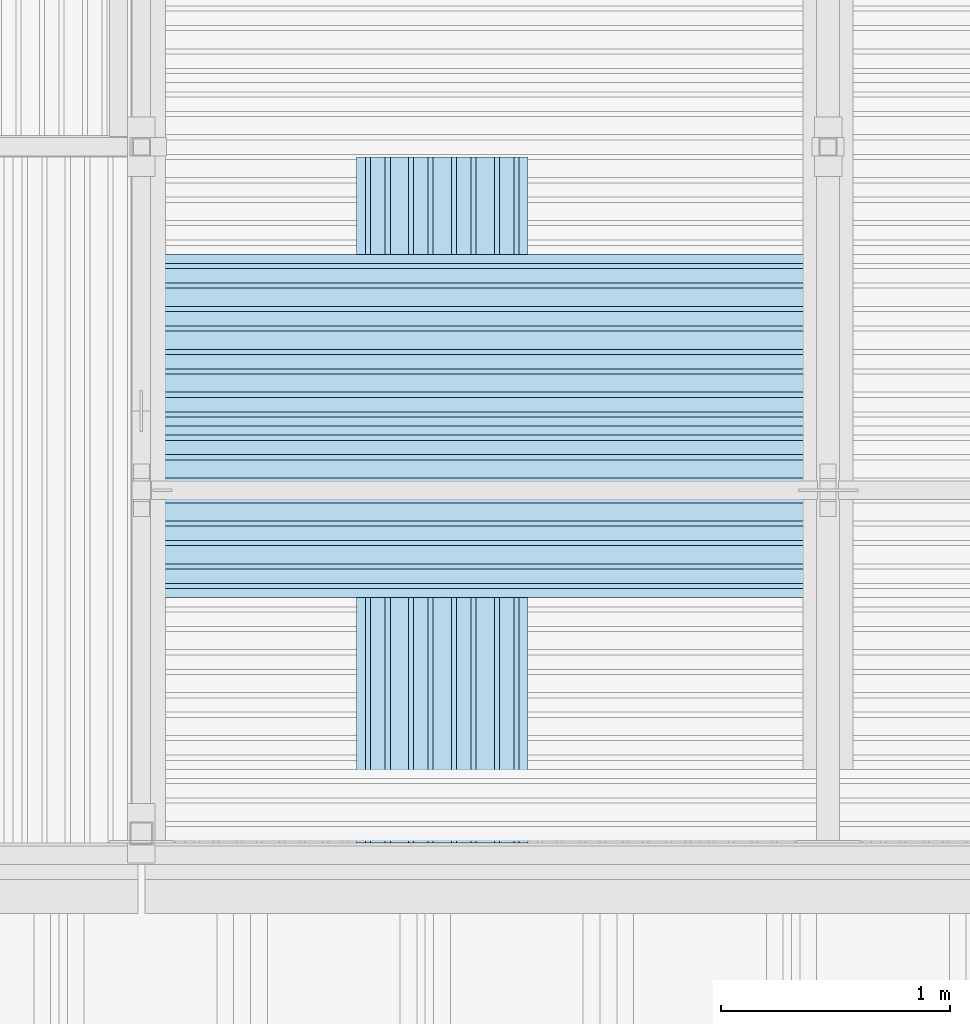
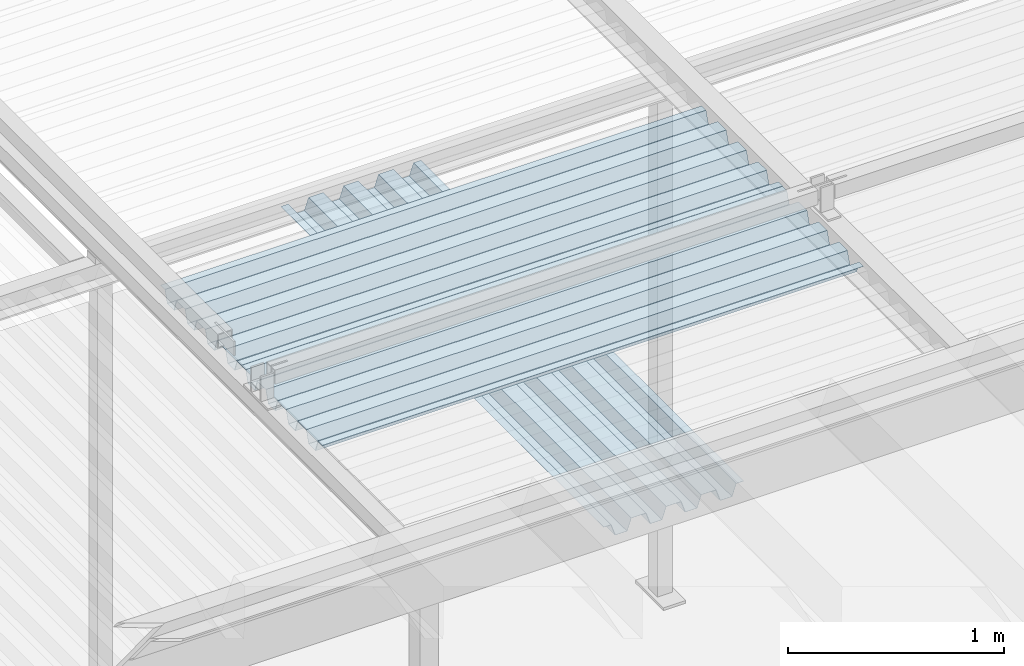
# One storey, part 61 of 98: 3 slabs.
"""IFC2X3 building model written with IfcOpenShell, lengths in millimetres."""

import ifcopenshell
import ifcopenshell.guid

model = None  # the IFC model being written
_history = None  # IfcOwnerHistory: only IFC2X3 demands one
_inside = {}  # id of a spatial element -> (the spatial element, [elements in it])
_under = {}  # id of a project, library or spatial element -> (it, [spatial elements below it])
_declared = {}  # id of a project -> (the project, [libraries it declares])
_typed = {}  # id of a type object -> (the type object, [elements of that type])
_made_of = {}  # id of a material, layer set ... -> (it, [elements and type objects made of it])


def new_model(schema):
    """Start an empty IFC model of exactly this schema.

    Asked for "IFC4X3", IfcOpenShell would pick the latest addendum, in which some entities
    have other attributes; the version numbers below select the first issue.
    IFC2X3 requires an IfcOwnerHistory on every rooted entity: one is made here for all.
    """
    global model, _history
    if schema == "IFC4X3":
        model = ifcopenshell.file(schema_version=(4, 3, 0, 0))
    else:
        model = ifcopenshell.file(schema=schema)
    _inside.clear()
    _under.clear()
    _declared.clear()
    _typed.clear()
    _made_of.clear()
    _history = None
    if model.schema == "IFC2X3":
        org = make("IfcOrganization", Name="unknown")
        user = make(
            "IfcPersonAndOrganization",
            ThePerson=make("IfcPerson", FamilyName="unknown"),
            TheOrganization=org,
        )
        app = make(
            "IfcApplication",
            ApplicationDeveloper=org,
            Version="unknown",
            ApplicationFullName="unknown",
            ApplicationIdentifier="unknown",
        )
        _history = make(
            "IfcOwnerHistory",
            OwningUser=user,
            OwningApplication=app,
            ChangeAction="ADDED",
            CreationDate=0,
        )
    return model


def make(cls, **values):
    """One entity of the class cls with the attributes given. An attribute that is None is left unset."""
    return model.create_entity(
        cls, **{name: value for name, value in values.items() if value is not None}
    )


def entity(cls, *values):
    """Any entity or typed value of the class cls, its attributes in the order of the schema. None: left unset."""
    e = model.create_entity(cls)
    for i, value in enumerate(values):
        if value is not None:
            e[i] = value
    return e


def rooted(cls, **values):
    """An entity with a GlobalId (a new one), such as an element, a storey or a relation."""
    return make(cls, GlobalId=ifcopenshell.guid.new(), OwnerHistory=_history, **values)


def si_unit(unit_type, name, prefix=None):
    """IfcSIUnit, for example si_unit("LENGTHUNIT", "METRE", prefix="MILLI")."""
    return make("IfcSIUnit", UnitType=unit_type, Prefix=prefix, Name=name)


def converted_unit(unit_type, name, factor, base, dimensions=None, offset=None):
    """IfcConversionBasedUnit, such as the inch: factor (a typed value) times the base unit."""
    return make(
        "IfcConversionBasedUnit"
        if offset is None
        else "IfcConversionBasedUnitWithOffset",
        ConversionOffset=offset,
        Dimensions=None
        if dimensions is None
        else entity("IfcDimensionalExponents", *dimensions),
        UnitType=unit_type,
        Name=name,
        ConversionFactor=make(
            "IfcMeasureWithUnit", ValueComponent=factor, UnitComponent=base
        ),
    )


def derived_unit(unit_type, elements):
    """IfcDerivedUnit: a product of units, each with its exponent."""
    return make(
        "IfcDerivedUnit",
        Elements=[
            make("IfcDerivedUnitElement", Unit=unit, Exponent=power)
            for unit, power in elements
        ],
        UnitType=unit_type,
    )


def assignment(units):
    """IfcUnitAssignment: the units of a project."""
    return None if units is None else make("IfcUnitAssignment", Units=units)


def point(xyz):
    """IfcCartesianPoint."""
    return None if xyz is None else make("IfcCartesianPoint", Coordinates=xyz)


def direction(xyz):
    """IfcDirection."""
    return None if xyz is None else make("IfcDirection", DirectionRatios=xyz)


def frame(location, z_axis=None, x_axis=None):
    """IfcAxis2Placement3D, a coordinate frame: its origin and axes. An axis left out is left unset."""
    return make(
        "IfcAxis2Placement3D",
        Location=point(location),
        Axis=direction(z_axis),
        RefDirection=direction(x_axis),
    )


def origin_with_axes():
    """The frame at (0, 0, 0) with the z axis (0, 0, 1) and the x axis (1, 0, 0) written out."""
    return frame((0.0, 0.0, 0.0), z_axis=(0.0, 0.0, 1.0), x_axis=(1.0, 0.0, 0.0))


def place(relative_to, where):
    """IfcLocalPlacement: puts the frame where relative to a parent placement (None: the world)."""
    return make(
        "IfcLocalPlacement", PlacementRelTo=relative_to, RelativePlacement=where
    )


def context(
    kind, dimensions, precision=None, world=None, true_north=None, identifier=None
):
    """IfcGeometricRepresentationContext, for example the 3D "Model" context."""
    return make(
        "IfcGeometricRepresentationContext",
        ContextIdentifier=identifier,
        ContextType=kind,
        CoordinateSpaceDimension=dimensions,
        Precision=precision,
        WorldCoordinateSystem=world,
        TrueNorth=true_north,
    )


def subcontext(parent, identifier, kind, view, scale=None):
    """IfcGeometricRepresentationSubContext, for example "Body" below "Model"."""
    return make(
        "IfcGeometricRepresentationSubContext",
        ContextIdentifier=identifier,
        ContextType=kind,
        ParentContext=parent,
        TargetScale=scale,
        TargetView=view,
    )


def project(units=None, contexts=None):
    """IfcProject with its units and contexts."""
    return rooted(
        "IfcProject",
        Name="project",
        RepresentationContexts=contexts,
        UnitsInContext=assignment(units),
    )


def spatial(cls, under=None, at=None, **own):
    """A site, building, storey or space (cls), placed at a placement, below another one or the project."""
    s = rooted(cls, ObjectPlacement=at, **own)
    if under is not None:
        _under.setdefault(under.id(), (under, []))[1].append(s)
    return s


def faces_of(points, faces, orient=None, outer=None):
    """IfcFace entities. A face is a list of loops; a loop is a list of indices into points, from 0.

    orient and outer hold one flag for each loop. By default every Orientation is true, the
    first loop of a face is its IfcFaceOuterBound and the others are IfcFaceBound.
    """
    made = []
    for i, loops in enumerate(faces):
        bounds = []
        for j, loop in enumerate(loops):
            is_outer = j == 0 if outer is None else outer[i][j]
            bounds.append(
                make(
                    "IfcFaceOuterBound" if is_outer else "IfcFaceBound",
                    Bound=make("IfcPolyLoop", Polygon=[points[k] for k in loop]),
                    Orientation=True if orient is None else orient[i][j],
                )
            )
        made.append(make("IfcFace", Bounds=bounds))
    return made


def faceted_brep(points, faces, orient=None, outer=None, voids=None):
    """IfcFacetedBrep: a solid bounded by flat faces; with voids (closed shells), ...WithVoids."""
    shared = [point(p) for p in points]
    hull = make("IfcClosedShell", CfsFaces=faces_of(shared, faces, orient, outer))
    if voids is None:
        return make("IfcFacetedBrep", Outer=hull)
    return make(
        "IfcFacetedBrepWithVoids",
        Outer=hull,
        Voids=[
            make(cls, CfsFaces=faces_of(shared, fs, o, b)) for cls, fs, o, b in voids
        ],
    )


def shape(context_of_items, identifier, shape_type, items):
    """IfcShapeRepresentation: the items that make up one representation, for example the "Body"."""
    return make(
        "IfcShapeRepresentation",
        ContextOfItems=context_of_items,
        RepresentationIdentifier=identifier,
        RepresentationType=shape_type,
        Items=items,
    )


def material(Name=None, Category=None):
    """IfcMaterial."""
    return make("IfcMaterial", Name=Name, Category=Category)


def made_of(thing, what):
    """Note that an element or type object is made of a material, layer set ...; save() writes the relation."""
    if what is not None:
        _made_of.setdefault(what.id(), (what, []))[1].append(thing)
    return thing


def type_object(cls, material=None, **own):
    """A type object (cls), such as IfcWallType, which elements share."""
    return made_of(rooted(cls, **own), material)


def element(
    cls,
    number,
    at=None,
    inside=None,
    cuts=None,
    type_object=None,
    material=None,
    context=None,
    identifier="Body",
    shape_type=None,
    held_by="IfcProductDefinitionShape",
    body=None,
    shapes=None,
    **own,
):
    """One element of the class cls, such as IfcWall. Its Tag is "e" and its number.

    at: its placement. inside: the storey or other place that contains it. cuts: it is an
    opening in that element (IfcRelVoidsElement). A single representation is given by context,
    identifier, shape_type and body (its items); several are given by shapes. held_by: the class
    of the entity that holds the representations. save() writes the other relations.
    """
    e = rooted(cls, Tag="e%d" % number, ObjectPlacement=at, **own)
    if body is not None:
        shapes = [shape(context, identifier, shape_type, body)]
    if shapes is not None:
        e.Representation = make(held_by, Representations=shapes)
    if inside is not None:
        _inside.setdefault(inside.id(), (inside, []))[1].append(e)
    if cuts is not None:
        rooted(
            "IfcRelVoidsElement", RelatingBuildingElement=cuts, RelatedOpeningElement=e
        )
    if type_object is not None:
        _typed.setdefault(type_object.id(), (type_object, []))[1].append(e)
    return made_of(e, material)


def aggregate(whole, parts):
    """IfcRelAggregates: a whole, such as a stair, and the parts it consists of."""
    return rooted("IfcRelAggregates", RelatingObject=whole, RelatedObjects=parts)


def save(model, path):
    """Write the relations noted so far, then the file.

    IfcRelAggregates (storeys below a building ...), IfcRelContainedInSpatialStructure (elements
    in a storey), IfcRelDefinesByType, IfcRelAssociatesMaterial and IfcRelDeclares: one each for
    every whole, place, type object, material and project.
    """
    for whole, parts in _under.values():
        aggregate(whole, parts)
    for where, things in _inside.values():
        rooted(
            "IfcRelContainedInSpatialStructure",
            RelatedElements=things,
            RelatingStructure=where,
        )
    for kind, things in _typed.values():
        rooted("IfcRelDefinesByType", RelatedObjects=things, RelatingType=kind)
    for what, things in _made_of.values():
        rooted("IfcRelAssociatesMaterial", RelatedObjects=things, RelatingMaterial=what)
    for by, libraries in _declared.values():
        rooted("IfcRelDeclares", RelatingContext=by, RelatedDefinitions=libraries)
    model.write(path)


model = new_model("IFC2X3")

# Units and contexts
model_context = context("Model", 3, precision=0.01, world=frame((0.0, 4.29681676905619e-09, 0.0)), true_north=direction((4.01073788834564e-13, 1.0)))
plan_context = context("Plan", 3, precision=0.01, world=frame((0.0, 4.29681676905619e-09, 0.0)), true_north=direction((4.01073788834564e-13, 1.0)))
body_context = subcontext(model_context, "Body", "Model", "MODEL_VIEW")
ifc_project = project(units=[converted_unit("PLANEANGLEUNIT", "DEGREE", entity("IfcPositiveLengthMeasure", 0.0174532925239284), si_unit("PLANEANGLEUNIT", "RADIAN"), dimensions=[0, 0, 0, 0, 0, 0, 0]), si_unit("AREAUNIT", "SQUARE_METRE"), si_unit("LENGTHUNIT", "METRE", prefix="MILLI"), si_unit("MASSUNIT", "GRAM", prefix="KILO"), si_unit("POWERUNIT", "WATT"), si_unit("PRESSUREUNIT", "PASCAL"), si_unit("FORCEUNIT", "NEWTON", prefix="KILO"), si_unit("ELECTRICCURRENTUNIT", "AMPERE"), si_unit("THERMODYNAMICTEMPERATUREUNIT", "DEGREE_CELSIUS"), si_unit("TIMEUNIT", "SECOND"), si_unit("VOLUMEUNIT", "CUBIC_METRE"), derived_unit("LINEARVELOCITYUNIT", [(si_unit("LENGTHUNIT", "METRE"), 1), (si_unit("TIMEUNIT", "SECOND"), -1)]), derived_unit("VOLUMETRICFLOWRATEUNIT", [(si_unit("VOLUMEUNIT", "CUBIC_METRE"), 1), (si_unit("TIMEUNIT", "SECOND"), -1)]), derived_unit("THERMALTRANSMITTANCEUNIT", [(si_unit("POWERUNIT", "WATT"), 1), (si_unit("THERMODYNAMICTEMPERATUREUNIT", "KELVIN"), -1), (si_unit("AREAUNIT", "SQUARE_METRE"), -1)])], contexts=[model_context, plan_context])

# Site, building, storey
site_placement = place(None, frame((0.0, -4.29681676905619e-09, 0.0), z_axis=(0.0, 0.0, 1.0), x_axis=(1.0, 0.0, 0.0)))
site = spatial("IfcSite", under=ifc_project, at=site_placement, Name="Gardermoen", CompositionType="ELEMENT")
building_placement = place(site_placement, frame((0.0, 4.29681676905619e-09, 0.0), z_axis=(0.0, 0.0, 1.0), x_axis=(1.0, 0.0, 0.0)))
building = spatial("IfcBuilding", under=site, at=building_placement, Name="TS", CompositionType="ELEMENT")
storey_placement = place(building_placement, origin_with_axes())
storey = spatial("IfcBuildingStorey", under=building, at=storey_placement, Name="D", CompositionType="ELEMENT", Elevation=0.0)

# Slabs
ifc_material = material(Name="STEEL/S355")
slab_type = type_object("IfcSlabType", Name="PLANJA70", PredefinedType="NOTDEFINED")
slab_1_placement = place(storey_placement, frame((522950.000000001, 415904.996695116, 206958.849718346), z_axis=(0.0, 0.0, 1.0), x_axis=(-0.999999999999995, -9.99999902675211e-08, 0.0)))
element("IfcSlab", 1, at=slab_1_placement, inside=storey, type_object=slab_type, material=ifc_material, Name="STÅLTAK", ObjectType="PLANJA70", PredefinedType="FLOOR", context=body_context, shape_type="Brep", body=[
    faceted_brep([(0.0, 375.0, 34.1500015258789), (0.0, 335.299987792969, 34.1500015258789), (2900.00079747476, 335.299987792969, 34.1500015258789), (2900.00079747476, 375.0, 34.1500015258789), (0.0, 313.010681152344, -32.1500015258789), (2900.00079747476, 313.010681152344, -32.1500015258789), (0.0, 249.489303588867, -32.1500015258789), (2900.00079747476, 249.489303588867, -32.1500015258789), (0.0, 227.199996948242, 34.1500015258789), (2900.00079747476, 227.199996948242, 34.1500015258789), (0.0, 147.800003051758, 34.1500015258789), (2900.00079747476, 147.800003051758, 34.1500015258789), (0.0, 125.280120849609, -33.1500015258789), (2900.00079747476, 125.280120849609, -33.1500015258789), (0.0, 62.2198791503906, -33.1500015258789), (2900.00079747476, 62.2198791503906, -33.1500015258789), (0.0, 39.7000007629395, 34.1500015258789), (2900.00079747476, 39.7000007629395, 34.1500015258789), (0.0, -39.7000007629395, 34.1500015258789), (2900.00079747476, -39.7000007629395, 34.1500015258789), (0.0, -62.2198791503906, -33.1500015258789), (2900.00079747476, -62.2198791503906, -33.1500015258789), (0.0, -125.280120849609, -33.1500015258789), (2900.00079747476, -125.280120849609, -33.1500015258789), (0.0, -147.800003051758, 34.1500015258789), (2900.00079747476, -147.800003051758, 34.1500015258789), (0.0, -227.199996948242, 34.1500015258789), (2900.00079747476, -227.199996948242, 34.1500015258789), (0.0, -249.719879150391, -33.1500015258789), (2900.00079747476, -249.719879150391, -33.1500015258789), (0.0, -312.781188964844, -33.1500015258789), (2900.00079747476, -312.781188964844, -33.1500015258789), (0.0, -335.070495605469, 33.1500015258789), (2900.00079747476, -335.070495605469, 33.1500015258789), (0.0, -375.0, 33.1500015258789), (2900.00079747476, -375.0, 33.1500015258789), (0.0, -375.0, 32.1500015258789), (2900.00079747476, -375.0, 32.1500015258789), (0.0, -335.789306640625, 32.1500015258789), (2900.00079747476, -335.789306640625, 32.1500015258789), (0.0, -313.5, -34.1500015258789), (2900.00079747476, -313.5, -34.1500015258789), (0.0, -249.0, -34.1500015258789), (2900.00079747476, -249.0, -34.1500015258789), (0.0, -226.480117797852, 33.1500015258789), (2900.00079747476, -226.480117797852, 33.1500015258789), (0.0, -148.519882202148, 33.1500015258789), (2900.00079747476, -148.519882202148, 33.1500015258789), (0.0, -126.0, -34.1500015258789), (2900.00079747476, -126.0, -34.1500015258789), (0.0, -61.5, -34.1500015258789), (2900.00079747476, -61.5, -34.1500015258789), (0.0, -38.9801177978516, 33.1500015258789), (2900.00079747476, -38.9801177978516, 33.1500015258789), (0.0, 38.9801177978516, 33.1500015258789), (2900.00079747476, 38.9801177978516, 33.1500015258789), (0.0, 61.5, -34.1500015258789), (2900.00079747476, 61.5, -34.1500015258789), (0.0, 126.0, -34.1500015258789), (2900.00079747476, 126.0, -34.1500015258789), (0.0, 148.519882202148, 33.1500015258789), (2900.00079747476, 148.519882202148, 33.1500015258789), (0.0, 226.481185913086, 33.1500015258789), (2900.00079747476, 226.481185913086, 33.1500015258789), (0.0, 248.770492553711, -33.1500015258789), (2900.00079747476, 248.770492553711, -33.1500015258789), (0.0, 313.7294921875, -33.1500015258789), (2900.00079747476, 313.7294921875, -33.1500015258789), (0.0, 336.018798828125, 33.1500015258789), (2900.00079747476, 336.018798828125, 33.1500015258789), (0.0, 375.0, 33.1500015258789), (2900.00079747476, 375.0, 33.1500015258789)], [[[0, 1, 2, 3]], [[1, 4, 5, 2]], [[4, 6, 7, 5]], [[6, 8, 9, 7]], [[8, 10, 11, 9]], [[10, 12, 13, 11]], [[12, 14, 15, 13]], [[14, 16, 17, 15]], [[16, 18, 19, 17]], [[18, 20, 21, 19]], [[22, 23, 21, 20]], [[22, 24, 25, 23]], [[24, 26, 27, 25]], [[26, 28, 29, 27]], [[28, 30, 31, 29]], [[30, 32, 33, 31]], [[32, 34, 35, 33]], [[34, 36, 37, 35]], [[36, 38, 39, 37]], [[38, 40, 41, 39]], [[40, 42, 43, 41]], [[42, 44, 45, 43]], [[44, 46, 47, 45]], [[46, 48, 49, 47]], [[48, 50, 51, 49]], [[50, 52, 53, 51]], [[52, 54, 55, 53]], [[54, 56, 57, 55]], [[56, 58, 59, 57]], [[58, 60, 61, 59]], [[60, 62, 63, 61]], [[62, 64, 65, 63]], [[64, 66, 67, 65]], [[66, 68, 69, 67]], [[68, 70, 71, 69]], [[70, 0, 3, 71]], [[5, 7, 9, 11, 13, 15, 17, 19, 21, 23, 25, 27, 29, 31, 33, 35, 37, 39, 41, 43, 45, 47, 49, 51, 53, 55, 57, 59, 61, 63, 65, 67, 69, 71, 3, 2]], [[70, 68, 66, 64, 62, 60, 58, 56, 54, 52, 50, 48, 46, 44, 42, 40, 38, 36, 34, 32, 30, 28, 26, 24, 22, 20, 18, 16, 14, 12, 10, 8, 6, 4, 1, 0]]]),
])
slab_2_placement = place(storey_placement, frame((522950.000000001, 416654.996695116, 206958.849718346), z_axis=(0.0, 0.0, 1.0), x_axis=(-0.999999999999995, -9.99999902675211e-08, 0.0)))
element("IfcSlab", 2, at=slab_2_placement, inside=storey, type_object=slab_type, material=ifc_material, Name="STÅLTAK", ObjectType="PLANJA70", PredefinedType="FLOOR", context=body_context, shape_type="Brep", body=[
    faceted_brep([(0.0, 375.0, 34.1500015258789), (0.0, 335.299987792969, 34.1500015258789), (2900.00079747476, 335.299987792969, 34.1500015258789), (2900.00079747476, 375.0, 34.1500015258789), (0.0, 313.010681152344, -32.1500015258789), (2900.00079747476, 313.010681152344, -32.1500015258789), (0.0, 249.489303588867, -32.1500015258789), (2900.00079747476, 249.489303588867, -32.1500015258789), (0.0, 227.199996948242, 34.1500015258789), (2900.00079747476, 227.199996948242, 34.1500015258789), (0.0, 147.800003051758, 34.1500015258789), (2900.00079747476, 147.800003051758, 34.1500015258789), (0.0, 125.280120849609, -33.1500015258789), (2900.00079747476, 125.280120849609, -33.1500015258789), (0.0, 62.2198791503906, -33.1500015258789), (2900.00079747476, 62.2198791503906, -33.1500015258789), (0.0, 39.7000007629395, 34.1500015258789), (2900.00079747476, 39.7000007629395, 34.1500015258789), (0.0, -39.7000007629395, 34.1500015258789), (2900.00079747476, -39.7000007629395, 34.1500015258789), (0.0, -62.2198791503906, -33.1500015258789), (2900.00079747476, -62.2198791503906, -33.1500015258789), (0.0, -125.280120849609, -33.1500015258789), (2900.00079747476, -125.280120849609, -33.1500015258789), (0.0, -147.800003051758, 34.1500015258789), (2900.00079747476, -147.800003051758, 34.1500015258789), (0.0, -227.199996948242, 34.1500015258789), (2900.00079747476, -227.199996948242, 34.1500015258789), (0.0, -249.719879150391, -33.1500015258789), (2900.00079747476, -249.719879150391, -33.1500015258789), (0.0, -312.781188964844, -33.1500015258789), (2900.00079747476, -312.781188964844, -33.1500015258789), (0.0, -335.070495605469, 33.1500015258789), (2900.00079747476, -335.070495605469, 33.1500015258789), (0.0, -375.0, 33.1500015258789), (2900.00079747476, -375.0, 33.1500015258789), (0.0, -375.0, 32.1500015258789), (2900.00079747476, -375.0, 32.1500015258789), (0.0, -335.789306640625, 32.1500015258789), (2900.00079747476, -335.789306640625, 32.1500015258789), (0.0, -313.5, -34.1500015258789), (2900.00079747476, -313.5, -34.1500015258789), (0.0, -249.0, -34.1500015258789), (2900.00079747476, -249.0, -34.1500015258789), (0.0, -226.480117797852, 33.1500015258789), (2900.00079747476, -226.480117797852, 33.1500015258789), (0.0, -148.519882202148, 33.1500015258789), (2900.00079747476, -148.519882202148, 33.1500015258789), (0.0, -126.0, -34.1500015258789), (2900.00079747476, -126.0, -34.1500015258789), (0.0, -61.5, -34.1500015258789), (2900.00079747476, -61.5, -34.1500015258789), (0.0, -38.9801177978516, 33.1500015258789), (2900.00079747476, -38.9801177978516, 33.1500015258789), (0.0, 38.9801177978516, 33.1500015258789), (2900.00079747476, 38.9801177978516, 33.1500015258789), (0.0, 61.5, -34.1500015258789), (2900.00079747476, 61.5, -34.1500015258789), (0.0, 126.0, -34.1500015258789), (2900.00079747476, 126.0, -34.1500015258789), (0.0, 148.519882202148, 33.1500015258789), (2900.00079747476, 148.519882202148, 33.1500015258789), (0.0, 226.481185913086, 33.1500015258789), (2900.00079747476, 226.481185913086, 33.1500015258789), (0.0, 248.770492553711, -33.1500015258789), (2900.00079747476, 248.770492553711, -33.1500015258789), (0.0, 313.7294921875, -33.1500015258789), (2900.00079747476, 313.7294921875, -33.1500015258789), (0.0, 336.018798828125, 33.1500015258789), (2900.00079747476, 336.018798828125, 33.1500015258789), (0.0, 375.0, 33.1500015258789), (2900.00079747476, 375.0, 33.1500015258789)], [[[0, 1, 2, 3]], [[1, 4, 5, 2]], [[4, 6, 7, 5]], [[6, 8, 9, 7]], [[8, 10, 11, 9]], [[10, 12, 13, 11]], [[12, 14, 15, 13]], [[14, 16, 17, 15]], [[16, 18, 19, 17]], [[18, 20, 21, 19]], [[22, 23, 21, 20]], [[22, 24, 25, 23]], [[24, 26, 27, 25]], [[26, 28, 29, 27]], [[28, 30, 31, 29]], [[30, 32, 33, 31]], [[32, 34, 35, 33]], [[34, 36, 37, 35]], [[36, 38, 39, 37]], [[38, 40, 41, 39]], [[40, 42, 43, 41]], [[42, 44, 45, 43]], [[44, 46, 47, 45]], [[46, 48, 49, 47]], [[48, 50, 51, 49]], [[50, 52, 53, 51]], [[52, 54, 55, 53]], [[54, 56, 57, 55]], [[56, 58, 59, 57]], [[58, 60, 61, 59]], [[60, 62, 63, 61]], [[62, 64, 65, 63]], [[64, 66, 67, 65]], [[66, 68, 69, 67]], [[68, 70, 71, 69]], [[70, 0, 3, 71]], [[5, 7, 9, 11, 13, 15, 17, 19, 21, 23, 25, 27, 29, 31, 33, 35, 37, 39, 41, 43, 45, 47, 49, 51, 53, 55, 57, 59, 61, 63, 65, 67, 69, 71, 3, 2]], [[70, 68, 66, 64, 62, 60, 58, 56, 54, 52, 50, 48, 46, 44, 42, 40, 38, 36, 34, 32, 30, 28, 26, 24, 22, 20, 18, 16, 14, 12, 10, 8, 6, 4, 1, 0]]]),
])
slab_3_placement = place(storey_placement, frame((521314.996695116, 414458.999999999, 206834.129718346), z_axis=(0.0, 0.0, 1.0), x_axis=(0.0, 1.0, 0.0)))
element("IfcSlab", 3, at=slab_3_placement, inside=storey, type_object=slab_type, material=ifc_material, Name="STÅLTAK", ObjectType="PLANJA70", PredefinedType="FLOOR", context=body_context, shape_type="Brep", body=[
    faceted_brep([(0.0, 375.0, 34.1500015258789), (0.0, 335.299987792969, 34.1500015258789), (2995.66049790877, 335.299987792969, 34.1500015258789), (2995.66049790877, 375.0, 34.1500015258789), (0.0, 313.010681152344, -32.1500015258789), (2995.66049790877, 313.010681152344, -32.1500015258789), (0.0, 249.489303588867, -32.1500015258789), (2995.66049790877, 249.489303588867, -32.1500015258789), (0.0, 227.199996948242, 34.1500015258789), (2995.66049790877, 227.199996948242, 34.1500015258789), (0.0, 147.800003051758, 34.1500015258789), (2995.66049790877, 147.800003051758, 34.1500015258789), (0.0, 125.280120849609, -33.1500015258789), (2995.66049790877, 125.280120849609, -33.1500015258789), (0.0, 62.2198791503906, -33.1500015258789), (2995.66049790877, 62.2198791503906, -33.1500015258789), (0.0, 39.7000007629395, 34.1500015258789), (2995.66049790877, 39.7000007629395, 34.1500015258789), (0.0, -39.7000007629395, 34.1500015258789), (2995.66049790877, -39.7000007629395, 34.1500015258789), (0.0, -62.2198791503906, -33.1500015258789), (2995.66049790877, -62.2198791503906, -33.1500015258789), (0.0, -125.280120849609, -33.1500015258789), (2995.66049790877, -125.280120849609, -33.1500015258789), (0.0, -147.800003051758, 34.1500015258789), (2995.66049790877, -147.800003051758, 34.1500015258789), (0.0, -227.199996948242, 34.1500015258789), (2995.66049790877, -227.199996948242, 34.1500015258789), (0.0, -249.719879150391, -33.1500015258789), (2995.66049790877, -249.719879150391, -33.1500015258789), (0.0, -312.781188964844, -33.1500015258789), (2995.66049790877, -312.781188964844, -33.1500015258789), (0.0, -335.070495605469, 33.1500015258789), (2995.66049790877, -335.070495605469, 33.1500015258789), (0.0, -375.0, 33.1500015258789), (2995.66049790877, -375.0, 33.1500015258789), (0.0, -375.0, 32.1500015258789), (2995.66049790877, -375.0, 32.1500015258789), (0.0, -335.789306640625, 32.1500015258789), (2995.66049790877, -335.789306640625, 32.1500015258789), (0.0, -313.5, -34.1500015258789), (2995.66049790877, -313.5, -34.1500015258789), (0.0, -249.0, -34.1500015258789), (2995.66049790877, -249.0, -34.1500015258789), (0.0, -226.480117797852, 33.1500015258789), (2995.66049790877, -226.480117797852, 33.1500015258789), (0.0, -148.519882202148, 33.1500015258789), (2995.66049790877, -148.519882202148, 33.1500015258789), (0.0, -126.0, -34.1500015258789), (2995.66049790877, -126.0, -34.1500015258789), (0.0, -61.5, -34.1500015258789), (2995.66049790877, -61.5, -34.1500015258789), (0.0, -38.9801177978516, 33.1500015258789), (2995.66049790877, -38.9801177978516, 33.1500015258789), (0.0, 38.9801177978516, 33.1500015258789), (2995.66049790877, 38.9801177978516, 33.1500015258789), (0.0, 61.5, -34.1500015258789), (2995.66049790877, 61.5, -34.1500015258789), (0.0, 126.0, -34.1500015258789), (2995.66049790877, 126.0, -34.1500015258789), (0.0, 148.519882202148, 33.1500015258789), (2995.66049790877, 148.519882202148, 33.1500015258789), (0.0, 226.481185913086, 33.1500015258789), (2995.66049790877, 226.481185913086, 33.1500015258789), (0.0, 248.770492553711, -33.1500015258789), (2995.66049790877, 248.770492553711, -33.1500015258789), (0.0, 313.7294921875, -33.1500015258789), (2995.66049790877, 313.7294921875, -33.1500015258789), (0.0, 336.018798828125, 33.1500015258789), (2995.66049790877, 336.018798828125, 33.1500015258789), (0.0, 375.0, 33.1500015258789), (2995.66049790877, 375.0, 33.1500015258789)], [[[0, 1, 2, 3]], [[1, 4, 5, 2]], [[4, 6, 7, 5]], [[6, 8, 9, 7]], [[8, 10, 11, 9]], [[10, 12, 13, 11]], [[12, 14, 15, 13]], [[14, 16, 17, 15]], [[16, 18, 19, 17]], [[18, 20, 21, 19]], [[20, 22, 23, 21]], [[22, 24, 25, 23]], [[24, 26, 27, 25]], [[26, 28, 29, 27]], [[28, 30, 31, 29]], [[30, 32, 33, 31]], [[32, 34, 35, 33]], [[34, 36, 37, 35]], [[36, 38, 39, 37]], [[38, 40, 41, 39]], [[40, 42, 43, 41]], [[42, 44, 45, 43]], [[44, 46, 47, 45]], [[46, 48, 49, 47]], [[48, 50, 51, 49]], [[50, 52, 53, 51]], [[52, 54, 55, 53]], [[54, 56, 57, 55]], [[56, 58, 59, 57]], [[58, 60, 61, 59]], [[60, 62, 63, 61]], [[62, 64, 65, 63]], [[64, 66, 67, 65]], [[66, 68, 69, 67]], [[68, 70, 71, 69]], [[70, 0, 3, 71]], [[5, 7, 9, 11, 13, 15, 17, 19, 21, 23, 25, 27, 29, 31, 33, 35, 37, 39, 41, 43, 45, 47, 49, 51, 53, 55, 57, 59, 61, 63, 65, 67, 69, 71, 3, 2]], [[70, 68, 66, 64, 62, 60, 58, 56, 54, 52, 50, 48, 46, 44, 42, 40, 38, 36, 34, 32, 30, 28, 26, 24, 22, 20, 18, 16, 14, 12, 10, 8, 6, 4, 1, 0]]]),
])

save(model, "model.ifc")
